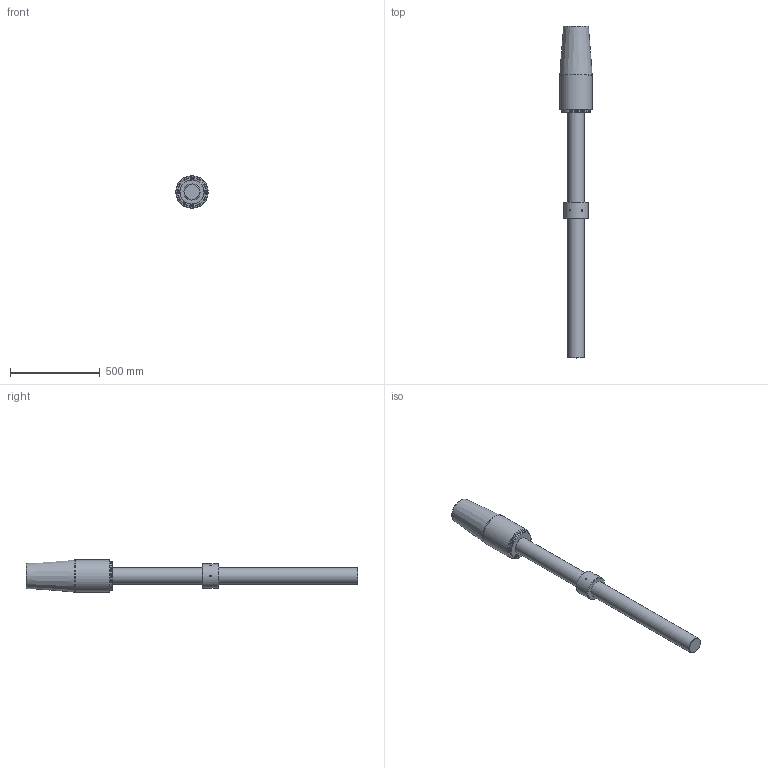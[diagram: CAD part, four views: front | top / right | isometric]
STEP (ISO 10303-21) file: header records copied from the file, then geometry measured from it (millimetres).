
FILE_DESCRIPTION(/* description */ (''),/* implementation_level */ '2;1');
FILE_NAME(/* name */ 'D:\Clienti\Redaelli (inventor)\CYB\STEP\Arrangement\CYB060 52 061 0.stp',/* time_stamp */ '2021-05-08T14:42:30+02:00',/* author */ ('fabri'),/* organization */ (''),/* preprocessor_version */ 'ST-DEVELOPER v16.13',/* originating_system */ 'Autodesk Inventor 2018',/* authorisation */ '');
FILE_SCHEMA (('AUTOMOTIVE_DESIGN { 1 0 10303 214 3 1 1 }'));
Length unit declared in the file: millimetre
Products named in the file (5): CYB060 52 061 0; RNT052 41 051 0_ROD; RNT052 41 051 0_ROD_1; CCY021-51-061-0_BUSH; CCY021-51-061-0
Assembly tree (4 placements, depth 2):
  CYB060 52 061 0
    RNT052 41 051 0_ROD
    RNT052 41 051 0_ROD_1
    CCY021-51-061-0_BUSH
    CCY021-51-061-0
Bounding box: 180 x 1845 x 180 mm (x, y, z)
Volume: 21916453.4 mm3; surface area: 925622.4 mm2
Topology: 4 solids, 4 shells, 707 faces, 1884 edges, 1251 vertices
Faces by surface type: bspline 408, plane 261, cylinder 18, cone 16, torus 4
Full cylindrical faces by diameter (mm): 8 x6, 8.376 x3, 83.505 x2, 90 x1, 91 x1, 125 x1, 135 x2, 160 x1, 180 x1
Entity records: 24092 total; most frequent: CARTESIAN_POINT 9321, ORIENTED_EDGE 3670, EDGE_CURVE 1835, DIRECTION 1667, VERTEX_POINT 1241, LINE 965, VECTOR 965, B_SPLINE_CURVE_WITH_KNOTS 826
